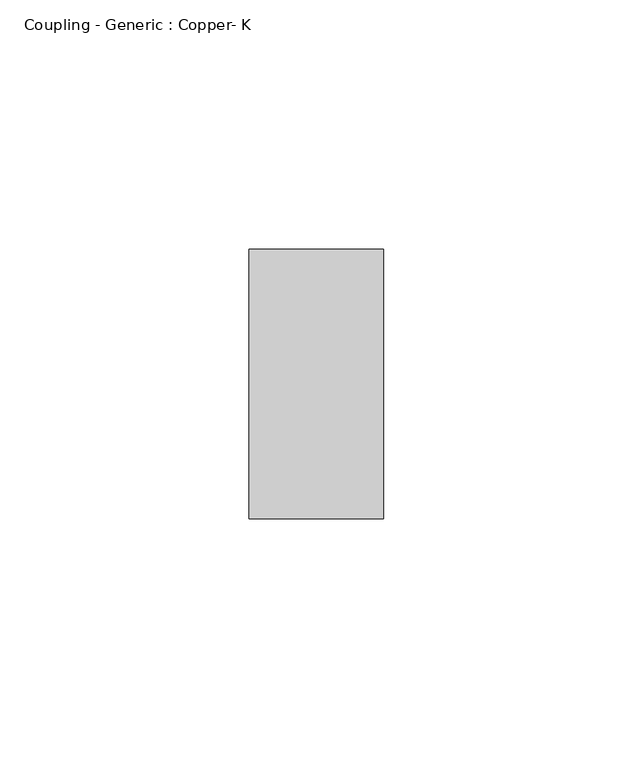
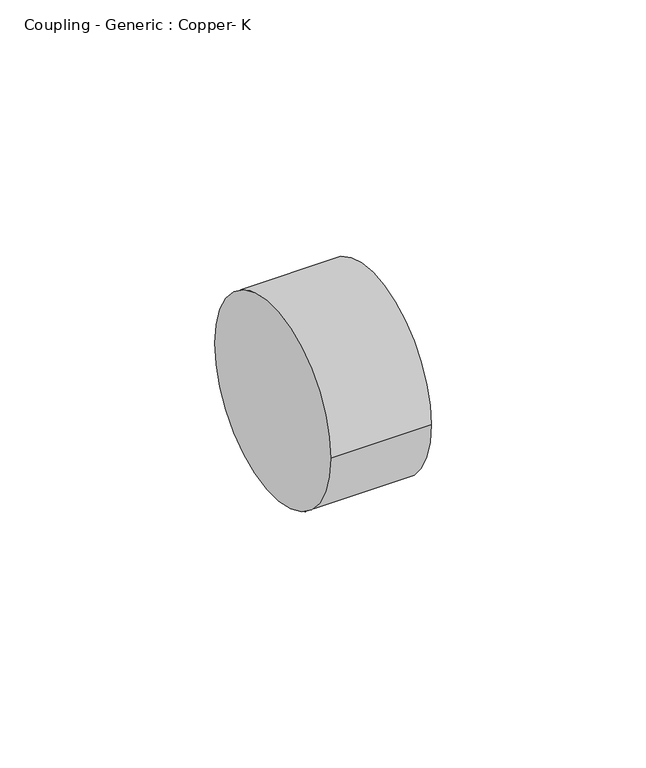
"""IFC4 building model written with IfcOpenShell, lengths in millimetres: pipe fitting geometry, Coupling - Generic : Copper- K."""

import ifcopenshell
import ifcopenshell.guid

model = None  # the IFC model being written
_history = None  # IfcOwnerHistory: only IFC2X3 demands one
_inside = {}  # id of a spatial element -> (the spatial element, [elements in it])
_under = {}  # id of a project, library or spatial element -> (it, [spatial elements below it])
_declared = {}  # id of a project -> (the project, [libraries it declares])
_typed = {}  # id of a type object -> (the type object, [elements of that type])
_made_of = {}  # id of a material, layer set ... -> (it, [elements and type objects made of it])


def new_model(schema):
    """Start an empty IFC model of exactly this schema.

    Asked for "IFC4X3", IfcOpenShell would pick the latest addendum, in which some entities
    have other attributes; the version numbers below select the first issue.
    IFC2X3 requires an IfcOwnerHistory on every rooted entity: one is made here for all.
    """
    global model, _history
    if schema == "IFC4X3":
        model = ifcopenshell.file(schema_version=(4, 3, 0, 0))
    else:
        model = ifcopenshell.file(schema=schema)
    _inside.clear()
    _under.clear()
    _declared.clear()
    _typed.clear()
    _made_of.clear()
    _history = None
    if model.schema == "IFC2X3":
        org = make("IfcOrganization", Name="unknown")
        user = make(
            "IfcPersonAndOrganization",
            ThePerson=make("IfcPerson", FamilyName="unknown"),
            TheOrganization=org,
        )
        app = make(
            "IfcApplication",
            ApplicationDeveloper=org,
            Version="unknown",
            ApplicationFullName="unknown",
            ApplicationIdentifier="unknown",
        )
        _history = make(
            "IfcOwnerHistory",
            OwningUser=user,
            OwningApplication=app,
            ChangeAction="ADDED",
            CreationDate=0,
        )
    return model


def make(cls, **values):
    """One entity of the class cls with the attributes given. An attribute that is None is left unset."""
    return model.create_entity(
        cls, **{name: value for name, value in values.items() if value is not None}
    )


def rooted(cls, **values):
    """An entity with a GlobalId (a new one), such as an element, a storey or a relation."""
    return make(cls, GlobalId=ifcopenshell.guid.new(), OwnerHistory=_history, **values)


def si_unit(unit_type, name, prefix=None):
    """IfcSIUnit, for example si_unit("LENGTHUNIT", "METRE", prefix="MILLI")."""
    return make("IfcSIUnit", UnitType=unit_type, Prefix=prefix, Name=name)


def assignment(units):
    """IfcUnitAssignment: the units of a project."""
    return None if units is None else make("IfcUnitAssignment", Units=units)


def point(xyz):
    """IfcCartesianPoint."""
    return None if xyz is None else make("IfcCartesianPoint", Coordinates=xyz)


def direction(xyz):
    """IfcDirection."""
    return None if xyz is None else make("IfcDirection", DirectionRatios=xyz)


def frame(location, z_axis=None, x_axis=None):
    """IfcAxis2Placement3D, a coordinate frame: its origin and axes. An axis left out is left unset."""
    return make(
        "IfcAxis2Placement3D",
        Location=point(location),
        Axis=direction(z_axis),
        RefDirection=direction(x_axis),
    )


def frame_2d(location, x_axis=None):
    """IfcAxis2Placement2D, a coordinate frame in the plane: its origin and x axis."""
    return make(
        "IfcAxis2Placement2D", Location=point(location), RefDirection=direction(x_axis)
    )


def origin():
    """The frame at (0, 0, 0) with its axes left unset."""
    return frame((0.0, 0.0, 0.0))


def origin_2d():
    """The frame at (0, 0) in the plane with its x axis left unset."""
    return frame_2d((0.0, 0.0))


def place(relative_to, where):
    """IfcLocalPlacement: puts the frame where relative to a parent placement (None: the world)."""
    return make(
        "IfcLocalPlacement", PlacementRelTo=relative_to, RelativePlacement=where
    )


def context(
    kind, dimensions, precision=None, world=None, true_north=None, identifier=None
):
    """IfcGeometricRepresentationContext, for example the 3D "Model" context."""
    return make(
        "IfcGeometricRepresentationContext",
        ContextIdentifier=identifier,
        ContextType=kind,
        CoordinateSpaceDimension=dimensions,
        Precision=precision,
        WorldCoordinateSystem=world,
        TrueNorth=true_north,
    )


def project(units=None, contexts=None):
    """IfcProject with its units and contexts."""
    return rooted(
        "IfcProject",
        Name="project",
        RepresentationContexts=contexts,
        UnitsInContext=assignment(units),
    )


def spatial(cls, under=None, at=None, **own):
    """A site, building, storey or space (cls), placed at a placement, below another one or the project."""
    s = rooted(cls, ObjectPlacement=at, **own)
    if under is not None:
        _under.setdefault(under.id(), (under, []))[1].append(s)
    return s


def circle_curve(where, radius):
    """IfcCircle in the frame where."""
    return make("IfcCircle", Position=where, Radius=radius)


def trimmed(basis, trim1, trim2, sense, master):
    """IfcTrimmedCurve: the piece of a basis curve between two trims."""
    return make(
        "IfcTrimmedCurve",
        BasisCurve=basis,
        Trim1=trim1,
        Trim2=trim2,
        SenseAgreement=sense,
        MasterRepresentation=master,
    )


def segment(curve, same_sense, transition):
    """IfcCompositeCurveSegment."""
    return make(
        "IfcCompositeCurveSegment",
        Transition=transition,
        SameSense=same_sense,
        ParentCurve=curve,
    )


def composite_curve(segments, self_intersect=None):
    """IfcCompositeCurve: segments joined end to end."""
    return make("IfcCompositeCurve", Segments=segments, SelfIntersect=self_intersect)


def outline(outer, holes=None, kind="AREA"):
    """IfcArbitraryClosedProfileDef: a profile drawn as a closed curve; with holes, ...WithVoids."""
    if holes is None:
        return make("IfcArbitraryClosedProfileDef", ProfileType=kind, OuterCurve=outer)
    return make(
        "IfcArbitraryProfileDefWithVoids",
        ProfileType=kind,
        OuterCurve=outer,
        InnerCurves=holes,
    )


def extrude(swept, where, along, depth):
    """IfcExtrudedAreaSolid: the profile swept, set in the frame where, extruded along a direction by depth."""
    return make(
        "IfcExtrudedAreaSolid",
        SweptArea=swept,
        Position=where,
        ExtrudedDirection=direction(along),
        Depth=depth,
    )


def shape(context_of_items, identifier, shape_type, items):
    """IfcShapeRepresentation: the items that make up one representation, for example the "Body"."""
    return make(
        "IfcShapeRepresentation",
        ContextOfItems=context_of_items,
        RepresentationIdentifier=identifier,
        RepresentationType=shape_type,
        Items=items,
    )


def source(mapping_origin, context_of_items, identifier, shape_type, items):
    """IfcRepresentationMap: a shape defined once, which mapped items show again and again."""
    return make(
        "IfcRepresentationMap",
        MappingOrigin=mapping_origin,
        MappedRepresentation=shape(context_of_items, identifier, shape_type, items),
    )


def transform(
    local_origin,
    x_axis=None,
    y_axis=None,
    z_axis=None,
    scale=None,
    scale2=None,
    scale3=None,
    uniform=True,
):
    """IfcCartesianTransformationOperator3D, or its non-uniform kind. x_axis, y_axis, z_axis: its Axis1, 2, 3."""
    if uniform:
        return make(
            "IfcCartesianTransformationOperator3D",
            Axis1=direction(x_axis),
            Axis2=direction(y_axis),
            LocalOrigin=point(local_origin),
            Scale=scale,
            Axis3=direction(z_axis),
        )
    return make(
        "IfcCartesianTransformationOperator3DnonUniform",
        Axis1=direction(x_axis),
        Axis2=direction(y_axis),
        LocalOrigin=point(local_origin),
        Scale=scale,
        Axis3=direction(z_axis),
        Scale2=scale2,
        Scale3=scale3,
    )


def mapped(mapping_source, mapping_target):
    """IfcMappedItem: shows the shape of a source again, moved by a transform."""
    return make(
        "IfcMappedItem", MappingSource=mapping_source, MappingTarget=mapping_target
    )


def made_of(thing, what):
    """Note that an element or type object is made of a material, layer set ...; save() writes the relation."""
    if what is not None:
        _made_of.setdefault(what.id(), (what, []))[1].append(thing)
    return thing


def element(
    cls,
    number,
    at=None,
    inside=None,
    cuts=None,
    type_object=None,
    material=None,
    context=None,
    identifier="Body",
    shape_type=None,
    held_by="IfcProductDefinitionShape",
    body=None,
    shapes=None,
    **own,
):
    """One element of the class cls, such as IfcWall. Its Tag is "e" and its number.

    at: its placement. inside: the storey or other place that contains it. cuts: it is an
    opening in that element (IfcRelVoidsElement). A single representation is given by context,
    identifier, shape_type and body (its items); several are given by shapes. held_by: the class
    of the entity that holds the representations. save() writes the other relations.
    """
    e = rooted(cls, Tag="e%d" % number, ObjectPlacement=at, **own)
    if body is not None:
        shapes = [shape(context, identifier, shape_type, body)]
    if shapes is not None:
        e.Representation = make(held_by, Representations=shapes)
    if inside is not None:
        _inside.setdefault(inside.id(), (inside, []))[1].append(e)
    if cuts is not None:
        rooted(
            "IfcRelVoidsElement", RelatingBuildingElement=cuts, RelatedOpeningElement=e
        )
    if type_object is not None:
        _typed.setdefault(type_object.id(), (type_object, []))[1].append(e)
    return made_of(e, material)


def aggregate(whole, parts):
    """IfcRelAggregates: a whole, such as a stair, and the parts it consists of."""
    return rooted("IfcRelAggregates", RelatingObject=whole, RelatedObjects=parts)


def save(model, path):
    """Write the relations noted so far, then the file.

    IfcRelAggregates (storeys below a building ...), IfcRelContainedInSpatialStructure (elements
    in a storey), IfcRelDefinesByType, IfcRelAssociatesMaterial and IfcRelDeclares: one each for
    every whole, place, type object, material and project.
    """
    for whole, parts in _under.values():
        aggregate(whole, parts)
    for where, things in _inside.values():
        rooted(
            "IfcRelContainedInSpatialStructure",
            RelatedElements=things,
            RelatingStructure=where,
        )
    for kind, things in _typed.values():
        rooted("IfcRelDefinesByType", RelatedObjects=things, RelatingType=kind)
    for what, things in _made_of.values():
        rooted("IfcRelAssociatesMaterial", RelatedObjects=things, RelatingMaterial=what)
    for by, libraries in _declared.values():
        rooted("IfcRelDeclares", RelatingContext=by, RelatedDefinitions=libraries)
    model.write(path)


def coupling_generic_copper_k_3e2081e2(model_context):
    return source(origin(), model_context, "Body", "SweptSolid", [
        extrude(outline(composite_curve([segment(trimmed(circle_curve(origin_2d(), 26.9875), [point((26.9875, 0.0))], [point((-26.9875, 0.0))], False, "CARTESIAN"), True, "CONTINUOUS"), segment(trimmed(circle_curve(origin_2d(), 26.9875), [point((-26.9875, 0.0))], [point((26.9875, 0.0))], False, "CARTESIAN"), True, "CONTINUOUS")], self_intersect=False)), frame((-13.49375, 0.0, 0.0), z_axis=(1.0, 0.0, 0.0), x_axis=(0.0, 1.0, 0.0)), (0.0, 0.0, 1.0), 26.9875),
    ])


if __name__ == "__main__":
    model = new_model("IFC4")
    model_context = context("Model", 3, world=origin())
    ifc_project = project(units=[si_unit("LENGTHUNIT", "METRE", prefix="MILLI")], contexts=[model_context])
    site = spatial("IfcSite", under=ifc_project)
    building = spatial("IfcBuilding", under=site)
    placement = place(None, origin())
    coupling_generic_copper_k_shape = coupling_generic_copper_k_3e2081e2(model_context)
    element("IfcPipeFitting", 1, ObjectType="Coupling - Generic : Copper- K", at=placement, inside=building, context=model_context, shape_type="MappedRepresentation", body=[
        mapped(coupling_generic_copper_k_shape, transform((0.0, 0.0, 0.0), x_axis=(1.0, 0.0, 0.0), y_axis=(0.0, 1.0, 0.0), z_axis=(0.0, 0.0, 1.0))),
    ])
    save(model, "model.ifc")
